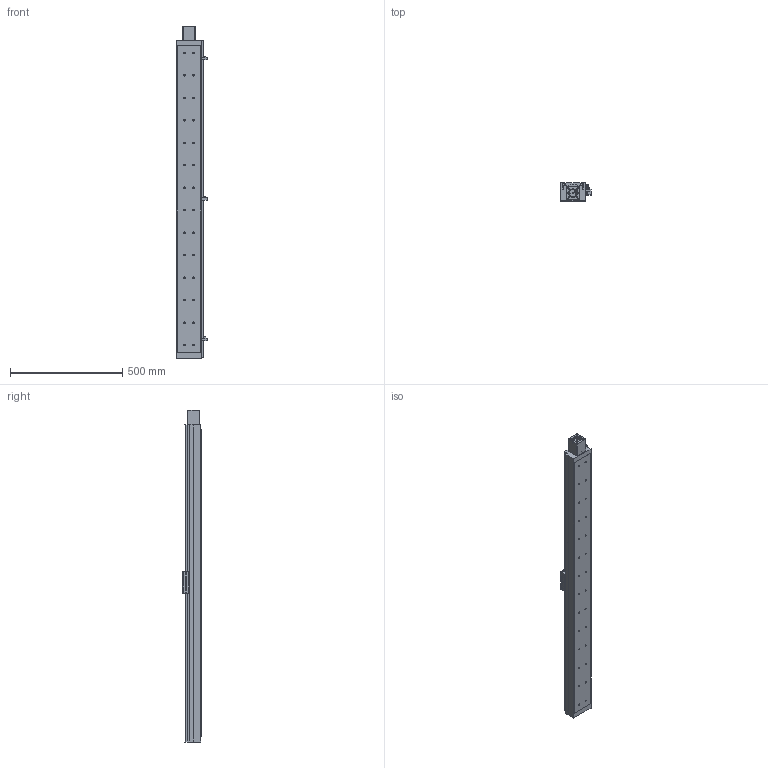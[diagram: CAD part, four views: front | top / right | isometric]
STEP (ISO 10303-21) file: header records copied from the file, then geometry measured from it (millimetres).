
FILE_DESCRIPTION((''),'2;1');
FILE_NAME('E:\libraries\UIA actuator library 2009\standard actuator\UIA110R12(15)DC\UIA110R12(15)DC-ball screw dia.20\UIA110R12(15)DC-_ _ _-R20_ _-M23 step file 20Apr16\UIA110R12(15)DC-1250-R20_ _-M23-P13-C10-S.stp','2016-04-22T11:51:15',('h029'),(''),'Autodesk Inventor 11','Autodesk Inventor 11','');
FILE_SCHEMA(('AUTOMOTIVE_DESIGN { 1 0 10303 214 1 1 1 1 }'));
Length unit declared in the file: millimetre
Products named in the file (10): UIA110R12(15)DC-1250, ball screw dia.20; bod, UIA110R12(15)DC-1250,-ball screw dia.20; Carriage, UIA110R12(15)DC; Sen Switch, UIA110R12(15)DC; sensor rail, UIA110R12(15)DC-1250; SOH-32C; SOH-32C-3; SOH-32C-1; SOH-32C-2; M23 motor mount
Assembly tree (9 placements, depth 3):
  UIA110R12(15)DC-1250, ball screw dia.20
    bod, UIA110R12(15)DC-1250,-ball screw dia.20
    Carriage, UIA110R12(15)DC
    Sen Switch, UIA110R12(15)DC
    sensor rail, UIA110R12(15)DC-1250
    SOH-32C
      SOH-32C-3
      SOH-32C-1
      SOH-32C-2
    M23 motor mount
Bounding box: 136.5 x 81 x 1477 mm (x, y, z)
Volume: 10570785.8 mm3; surface area: 787107.3 mm2
Topology: 8 solids, 8 shells, 693 faces, 1800 edges, 1181 vertices
Faces by surface type: plane 435, cylinder 156, bspline 83, cone 19
Full cylindrical faces by diameter (mm): 2.459 x4, 3.242 x4, 4 x6, 4.5 x4, 5.5 x3, 6.35 x1, 6.5 x28, 7.5 x4, 9.5 x6, 10 x2, 10.5 x28, 12 x1, 25 x1, 32 x3, 37 x1, 38.1 x1, 42 x1, 42.01 x1, 43.5 x1
Entity records: 21540 total; most frequent: CARTESIAN_POINT 5331, DIRECTION 3287, ORIENTED_EDGE 3066, EDGE_CURVE 1533, AXIS2_PLACEMENT_3D 1142, VERTEX_POINT 1104, VECTOR 1003, LINE 1003
